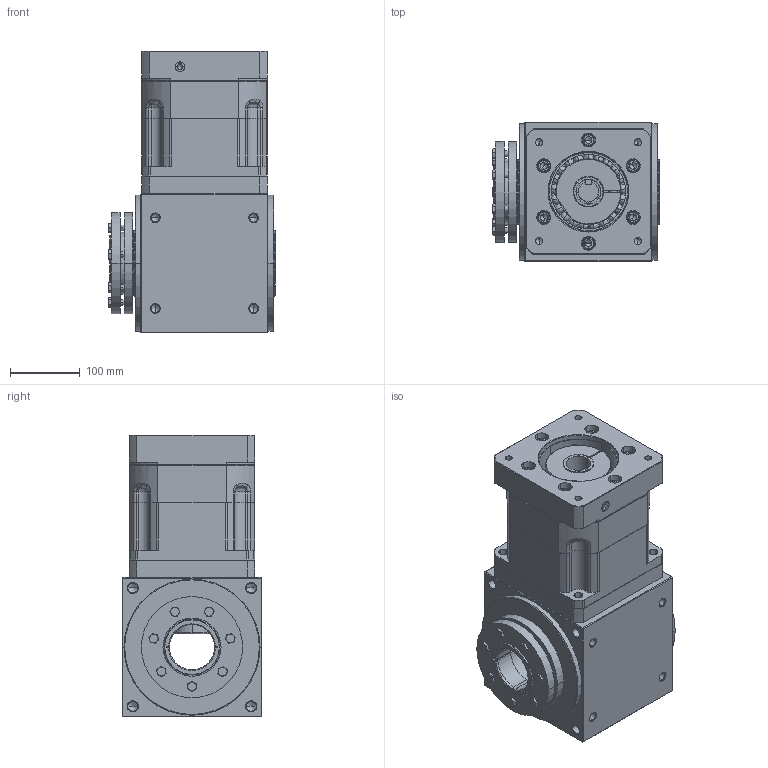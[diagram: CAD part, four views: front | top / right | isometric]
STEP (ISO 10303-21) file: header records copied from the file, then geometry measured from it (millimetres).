
FILE_DESCRIPTION (( 'STEP AP214' ), '1' );
FILE_NAME ('AAW200AS-L1-RFHP 35-114.3-200-M12.STEP', '2021-04-24T05:29:27', ( 'Microsoft' ), ( 'Microsoft China' ), 'SwSTEP 2.0', 'SolidWorks 2016', '' );
FILE_SCHEMA (( 'AUTOMOTIVE_DESIGN' ));
Length unit declared in the file: millimetre
Products named in the file (28): 薊粣んD42K30; Circlips for hole--Type B GB_GB_CONNECTING_PIECE_RINGS_CHB 110; Circlips for holes--Type A GB_GB_CONNECTING_PIECE_RING_RRH 130; 怮栠謫5B; Deep groove ball bearings GB_Rolling bearings 6214 GB 276-94; 笢潔楊擘; 俴陎謫5B; 俴陎謫菜え15.4X28; AAW200AS-100-RFHP-35-114.3-200-M12_1; 幗渀粣創15.259X21.259; Hexagon socket head cap screws GB_GB_FASTENER_SCREWS_HSHCS M12X45-N; 俴陎粣15.259; 曹噤杶42-35; 蚐猾75X130X12; 薊粣ん囀傍え42; Deep groove ball bearings GB_Rolling bearings 61826 GB 276-94; Spring lock washers--Normal type GB_GB_FASTENER_WASHER_SW 12; 怀堤粣5B; Spring lock washers--Normal type GB_GB_FASTENER_WASHER_SW 10; Deep groove ball bearings GB_Rolling bearings 6215 GB 276-94; Hexagon socket head cap screws GB_GB_FASTENER_SCREWS_HSHCS M10X55-N; 齿圈Z108; Hex socket set screws with flat point GB_GB_FASTENER_SCREWS_HSFP M16X20-N; Circlips for shaft--Type B GB_GB_CONNECTING_PIECE_RINGS_CSB 70; AAW200AS-L1-RFHP 35-114.3-200-M12; Plain parallel keys_GB_CONNECTING_PIECE_KEYS_CSK C8X22; Hexagon socket head cap screws GB_GB_FASTENER_SCREWS_HSHCS M12X35-N; 萇儂楊擘D114.3M12
Assembly tree (61 placements, depth 2):
  AAW200AS-L1-RFHP 35-114.3-200-M12
    齿圈Z108
    Deep groove ball bearings GB_Rolling bearings 6215 GB 276-94
    怀堤粣5B
    Deep groove ball bearings GB_Rolling bearings 61826 GB 276-94
    蚐猾75X130X12
    俴陎粣15.259  x3
    幗渀粣創15.259X21.259  x4
    俴陎謫菜え15.4X28  x6
    俴陎謫5B  x3
    笢潔楊擘
    Deep groove ball bearings GB_Rolling bearings 6214 GB 276-94
    怮栠謫5B
    Circlips for holes--Type A GB_GB_CONNECTING_PIECE_RING_RRH 130
    Circlips for hole--Type B GB_GB_CONNECTING_PIECE_RINGS_CHB 110
    薊粣んD42K30
    萇儂楊擘D114.3M12
    Hexagon socket head cap screws GB_GB_FASTENER_SCREWS_HSHCS M12X35-N
    Plain parallel keys_GB_CONNECTING_PIECE_KEYS_CSK C8X22
    Circlips for shaft--Type B GB_GB_CONNECTING_PIECE_RINGS_CSB 70
    Hex socket set screws with flat point GB_GB_FASTENER_SCREWS_HSFP M16X20-N  x2
    Hexagon socket head cap screws GB_GB_FASTENER_SCREWS_HSHCS M10X55-N  x4
    Spring lock washers--Normal type GB_GB_FASTENER_WASHER_SW 10  x4
    Spring lock washers--Normal type GB_GB_FASTENER_WASHER_SW 12  x11
    薊粣ん囀傍え42
    曹噤杶42-35
    Hexagon socket head cap screws GB_GB_FASTENER_SCREWS_HSHCS M12X45-N  x6
    AAW200AS-100-RFHP-35-114.3-200-M12_1
Bounding box: 238.69 x 200 x 404 mm (x, y, z)
Volume: 13062421.2 mm3; surface area: 1301804.9 mm2
Topology: 63 solids, 63 shells, 2315 faces, 6632 edges, 4110 vertices
Faces by surface type: cylinder 737, plane 612, bspline 574, cone 359, torus 33
Entity records: 103686 total; most frequent: CARTESIAN_POINT 37364, ORIENTED_EDGE 10600, DIRECTION 8171, EDGE_CURVE 5300, VERTEX_POINT 3445, AXIS2_PLACEMENT_3D 3400, EDGE_LOOP 2075, CIRCLE 2015
